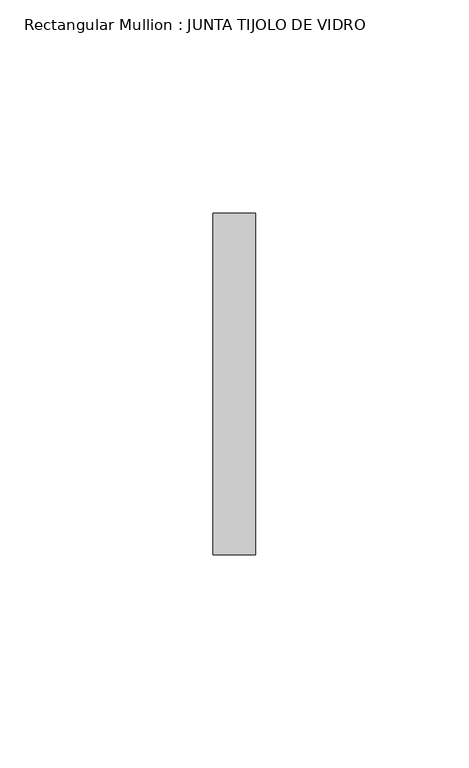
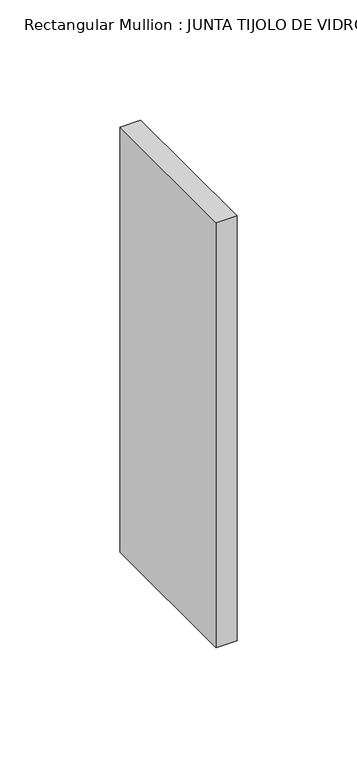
"""IFC4 building model written with IfcOpenShell, lengths in millimetres: member geometry, Rectangular Mullion : JUNTA TIJOLO DE VIDRO."""

from ifc_helpers import new_model, si_unit, frame, origin, place, context, project, spatial, polyline, outline, extrude, source, transform, mapped, element, save


def rectangular_mullion_junta_tijolo_de_vidro_30a91def(model_context):
    return source(origin(), model_context, "Body", "SweptSolid", [
        extrude(outline(polyline([(0.0, 40.0), (0.0, -40.0), (-10.0, -40.0), (-10.0, 40.0), (0.0, 40.0)])), frame((0.0, 0.0, -216.1111111), z_axis=(0.0, 0.0, 1.0), x_axis=(1.0, 0.0, 0.0)), (0.0, 0.0, 1.0), 216.1111111),
    ])


if __name__ == "__main__":
    model = new_model("IFC4")
    model_context = context("Model", 3, world=origin())
    ifc_project = project(units=[si_unit("LENGTHUNIT", "METRE", prefix="MILLI")], contexts=[model_context])
    site = spatial("IfcSite", under=ifc_project)
    building = spatial("IfcBuilding", under=site)
    placement = place(None, origin())
    rectangular_mullion_junta_tijolo_de_vidro_shape = rectangular_mullion_junta_tijolo_de_vidro_30a91def(model_context)
    element("IfcMember", 1, ObjectType="Rectangular Mullion : JUNTA TIJOLO DE VIDRO", at=placement, inside=building, context=model_context, shape_type="MappedRepresentation", body=[
        mapped(rectangular_mullion_junta_tijolo_de_vidro_shape, transform((0.0, 0.0, 0.0), x_axis=(1.0, 0.0, 0.0), y_axis=(0.0, 1.0, 0.0), z_axis=(0.0, 0.0, 1.0))),
    ])
    save(model, "model.ifc")
